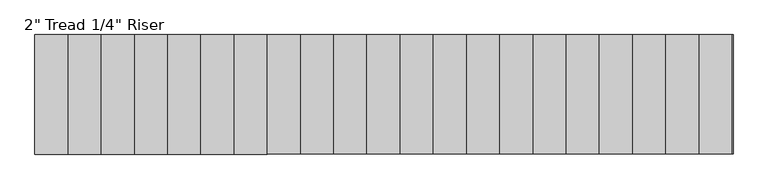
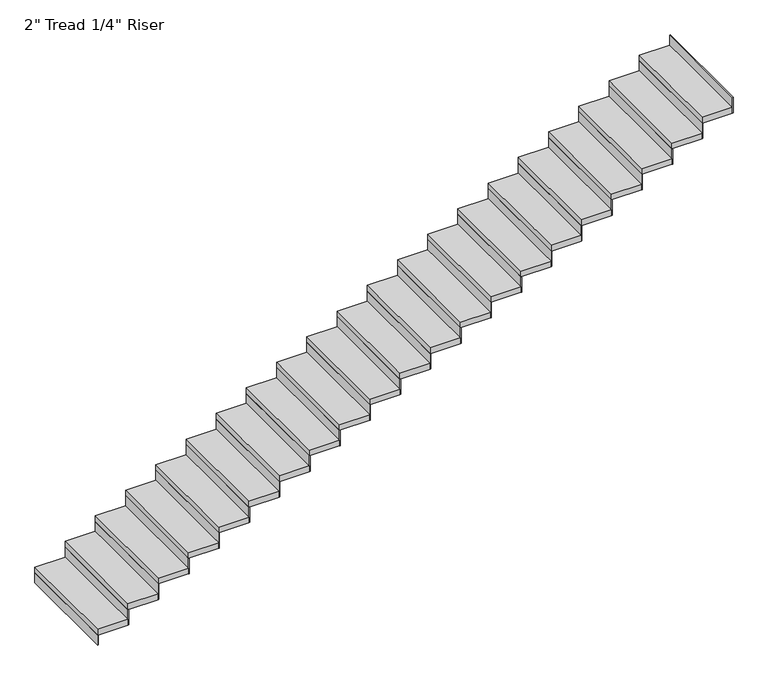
"""IFC4 building model written with IfcOpenShell, lengths in millimetres: stair flight geometry."""

from ifc_helpers import new_model, si_unit, frame, origin, origin_with_axes, place, context, project, spatial, polyline, outline, extrude, source, transform, mapped, element, save


def stair_flight_d6851f9f(model_context):
    return source(origin(), model_context, "Body", "SweptSolid", [
        extrude(outline(polyline([(60465.3810647, -52193.6426165), (60459.0310647, -52193.6426165), (60459.0310647, -51279.2426165), (60465.3810647, -51279.2426165), (60465.3810647, -52193.6426165)])), origin_with_axes(), (0.0, 0.0, 1.0), 87.7454545),
        extrude(outline(polyline([(60713.0310647, -51279.2426165), (60713.0310647, -52193.6426165), (60459.0310647, -52193.6426165), (60459.0310647, -51279.2426165), (60713.0310647, -51279.2426165)])), frame((0.0, 0.0, 87.7454545), z_axis=(0.0, 0.0, 1.0), x_axis=(1.0, 0.0, 0.0)), (0.0, 0.0, 1.0), 50.8),
        extrude(outline(polyline([(60719.3810647, -52193.6426165), (60713.0310647, -52193.6426165), (60713.0310647, -51279.2426165), (60719.3810647, -51279.2426165), (60719.3810647, -52193.6426165)])), frame((0.0, 0.0, 87.7454545), z_axis=(0.0, 0.0, 1.0), x_axis=(1.0, 0.0, 0.0)), (0.0, 0.0, 1.0), 138.5454545),
        extrude(outline(polyline([(60967.0310647, -51279.2426165), (60967.0310647, -52193.6426165), (60713.0310647, -52193.6426165), (60713.0310647, -51279.2426165), (60967.0310647, -51279.2426165)])), frame((0.0, 0.0, 226.2909091), z_axis=(0.0, 0.0, 1.0), x_axis=(1.0, 0.0, 0.0)), (0.0, 0.0, 1.0), 50.8),
        extrude(outline(polyline([(60973.3810647, -52193.6426165), (60967.0310647, -52193.6426165), (60967.0310647, -51279.2426165), (60973.3810647, -51279.2426165), (60973.3810647, -52193.6426165)])), frame((0.0, 0.0, 226.2909091), z_axis=(0.0, 0.0, 1.0), x_axis=(1.0, 0.0, 0.0)), (0.0, 0.0, 1.0), 138.5454545),
        extrude(outline(polyline([(61221.0310647, -51279.2426165), (61221.0310647, -52193.6426165), (60967.0310647, -52193.6426165), (60967.0310647, -51279.2426165), (61221.0310647, -51279.2426165)])), frame((0.0, 0.0, 364.8363636), z_axis=(0.0, 0.0, 1.0), x_axis=(1.0, 0.0, 0.0)), (0.0, 0.0, 1.0), 50.8),
        extrude(outline(polyline([(61227.3810647, -52193.6426165), (61221.0310647, -52193.6426165), (61221.0310647, -51279.2426165), (61227.3810647, -51279.2426165), (61227.3810647, -52193.6426165)])), frame((0.0, 0.0, 364.8363636), z_axis=(0.0, 0.0, 1.0), x_axis=(1.0, 0.0, 0.0)), (0.0, 0.0, 1.0), 138.5454545),
        extrude(outline(polyline([(61475.0310647, -51279.2426165), (61475.0310647, -52193.6426165), (61221.0310647, -52193.6426165), (61221.0310647, -51279.2426165), (61475.0310647, -51279.2426165)])), frame((0.0, 0.0, 503.3818182), z_axis=(0.0, 0.0, 1.0), x_axis=(1.0, 0.0, 0.0)), (0.0, 0.0, 1.0), 50.8),
        extrude(outline(polyline([(61481.3810647, -52193.6426165), (61475.0310647, -52193.6426165), (61475.0310647, -51279.2426165), (61481.3810647, -51279.2426165), (61481.3810647, -52193.6426165)])), frame((0.0, 0.0, 503.3818182), z_axis=(0.0, 0.0, 1.0), x_axis=(1.0, 0.0, 0.0)), (0.0, 0.0, 1.0), 138.5454545),
        extrude(outline(polyline([(61729.0310647, -51279.2426165), (61729.0310647, -52193.6426165), (61475.0310647, -52193.6426165), (61475.0310647, -51279.2426165), (61729.0310647, -51279.2426165)])), frame((0.0, 0.0, 641.9272727), z_axis=(0.0, 0.0, 1.0), x_axis=(1.0, 0.0, 0.0)), (0.0, 0.0, 1.0), 50.8),
        extrude(outline(polyline([(61735.3810647, -52193.6426165), (61729.0310647, -52193.6426165), (61729.0310647, -51279.2426165), (61735.3810647, -51279.2426165), (61735.3810647, -52193.6426165)])), frame((0.0, 0.0, 641.9272727), z_axis=(0.0, 0.0, 1.0), x_axis=(1.0, 0.0, 0.0)), (0.0, 0.0, 1.0), 138.5454545),
        extrude(outline(polyline([(61983.0310647, -51279.2426165), (61983.0310647, -52193.6426165), (61729.0310647, -52193.6426165), (61729.0310647, -51279.2426165), (61983.0310647, -51279.2426165)])), frame((0.0, 0.0, 780.4727273), z_axis=(0.0, 0.0, 1.0), x_axis=(1.0, 0.0, 0.0)), (0.0, 0.0, 1.0), 50.8),
        extrude(outline(polyline([(61989.3810647, -52193.6426165), (61983.0310647, -52193.6426165), (61983.0310647, -51279.2426165), (61989.3810647, -51279.2426165), (61989.3810647, -52193.6426165)])), frame((0.0, 0.0, 780.4727273), z_axis=(0.0, 0.0, 1.0), x_axis=(1.0, 0.0, 0.0)), (0.0, 0.0, 1.0), 138.5454545),
        extrude(outline(polyline([(62237.0310647, -51279.2426165), (62237.0310647, -52193.6426165), (61983.0310647, -52193.6426165), (61983.0310647, -51279.2426165), (62237.0310647, -51279.2426165)])), frame((0.0, 0.0, 919.0181818), z_axis=(0.0, 0.0, 1.0), x_axis=(1.0, 0.0, 0.0)), (0.0, 0.0, 1.0), 50.8),
        extrude(outline(polyline([(62243.3810647, -52193.6426165), (62237.0310647, -52193.6426165), (62237.0310647, -51279.2426165), (62243.3810647, -51279.2426165), (62243.3810647, -52193.6426165)])), frame((0.0, 0.0, 919.0181818), z_axis=(0.0, 0.0, 1.0), x_axis=(1.0, 0.0, 0.0)), (0.0, 0.0, 1.0), 138.5454545),
        extrude(outline(polyline([(62491.0310647, -51279.2426165), (62491.0310647, -52193.6426165), (62237.0310647, -52193.6426165), (62237.0310647, -51279.2426165), (62491.0310647, -51279.2426165)])), frame((0.0, 0.0, 1057.5636364), z_axis=(0.0, 0.0, 1.0), x_axis=(1.0, 0.0, 0.0)), (0.0, 0.0, 1.0), 50.8),
        extrude(outline(polyline([(62497.3810647, -52193.6426165), (62491.0310647, -52193.6426165), (62491.0310647, -51279.2426165), (62497.3810647, -51279.2426165), (62497.3810647, -52193.6426165)])), frame((0.0, 0.0, 1057.5636364), z_axis=(0.0, 0.0, 1.0), x_axis=(1.0, 0.0, 0.0)), (0.0, 0.0, 1.0), 138.5454545),
        extrude(outline(polyline([(62745.0310647, -51279.2426165), (62745.0310647, -52193.6426165), (62491.0310647, -52193.6426165), (62491.0310647, -51279.2426165), (62745.0310647, -51279.2426165)])), frame((0.0, 0.0, 1196.1090909), z_axis=(0.0, 0.0, 1.0), x_axis=(1.0, 0.0, 0.0)), (0.0, 0.0, 1.0), 50.8),
        extrude(outline(polyline([(62751.3810647, -52193.6426165), (62745.0310647, -52193.6426165), (62745.0310647, -51279.2426165), (62751.3810647, -51279.2426165), (62751.3810647, -52193.6426165)])), frame((0.0, 0.0, 1196.1090909), z_axis=(0.0, 0.0, 1.0), x_axis=(1.0, 0.0, 0.0)), (0.0, 0.0, 1.0), 138.5454545),
        extrude(outline(polyline([(62999.0310647, -51279.2426165), (62999.0310647, -52193.6426165), (62745.0310647, -52193.6426165), (62745.0310647, -51279.2426165), (62999.0310647, -51279.2426165)])), frame((0.0, 0.0, 1334.6545455), z_axis=(0.0, 0.0, 1.0), x_axis=(1.0, 0.0, 0.0)), (0.0, 0.0, 1.0), 50.8),
        extrude(outline(polyline([(63005.3810647, -52193.6426165), (62999.0310647, -52193.6426165), (62999.0310647, -51279.2426165), (63005.3810647, -51279.2426165), (63005.3810647, -52193.6426165)])), frame((0.0, 0.0, 1334.6545455), z_axis=(0.0, 0.0, 1.0), x_axis=(1.0, 0.0, 0.0)), (0.0, 0.0, 1.0), 138.5454545),
        extrude(outline(polyline([(63253.0310647, -51279.2426165), (63253.0310647, -52193.6426165), (62999.0310647, -52193.6426165), (62999.0310647, -51279.2426165), (63253.0310647, -51279.2426165)])), frame((0.0, 0.0, 1473.2), z_axis=(0.0, 0.0, 1.0), x_axis=(1.0, 0.0, 0.0)), (0.0, 0.0, 1.0), 50.8),
        extrude(outline(polyline([(63259.3810647, -52193.6426165), (63253.0310647, -52193.6426165), (63253.0310647, -51279.2426165), (63259.3810647, -51279.2426165), (63259.3810647, -52193.6426165)])), frame((0.0, 0.0, 1473.2), z_axis=(0.0, 0.0, 1.0), x_axis=(1.0, 0.0, 0.0)), (0.0, 0.0, 1.0), 138.5454545),
        extrude(outline(polyline([(63507.0310647, -51279.2426165), (63507.0310647, -52193.6426165), (63253.0310647, -52193.6426165), (63253.0310647, -51279.2426165), (63507.0310647, -51279.2426165)])), frame((0.0, 0.0, 1611.7454545), z_axis=(0.0, 0.0, 1.0), x_axis=(1.0, 0.0, 0.0)), (0.0, 0.0, 1.0), 50.8),
        extrude(outline(polyline([(63513.3810647, -52193.6426165), (63507.0310647, -52193.6426165), (63507.0310647, -51279.2426165), (63513.3810647, -51279.2426165), (63513.3810647, -52193.6426165)])), frame((0.0, 0.0, 1611.7454545), z_axis=(0.0, 0.0, 1.0), x_axis=(1.0, 0.0, 0.0)), (0.0, 0.0, 1.0), 138.5454545),
        extrude(outline(polyline([(63761.0310647, -51279.2426165), (63761.0310647, -52193.6426165), (63507.0310647, -52193.6426165), (63507.0310647, -51279.2426165), (63761.0310647, -51279.2426165)])), frame((0.0, 0.0, 1750.2909091), z_axis=(0.0, 0.0, 1.0), x_axis=(1.0, 0.0, 0.0)), (0.0, 0.0, 1.0), 50.8),
        extrude(outline(polyline([(63767.3810647, -52193.6426165), (63761.0310647, -52193.6426165), (63761.0310647, -51279.2426165), (63767.3810647, -51279.2426165), (63767.3810647, -52193.6426165)])), frame((0.0, 0.0, 1750.2909091), z_axis=(0.0, 0.0, 1.0), x_axis=(1.0, 0.0, 0.0)), (0.0, 0.0, 1.0), 138.5454545),
        extrude(outline(polyline([(64015.0310647, -51279.2426165), (64015.0310647, -52193.6426165), (63761.0310647, -52193.6426165), (63761.0310647, -51279.2426165), (64015.0310647, -51279.2426165)])), frame((0.0, 0.0, 1888.8363636), z_axis=(0.0, 0.0, 1.0), x_axis=(1.0, 0.0, 0.0)), (0.0, 0.0, 1.0), 50.8),
        extrude(outline(polyline([(64021.3810647, -52193.6426165), (64015.0310647, -52193.6426165), (64015.0310647, -51279.2426165), (64021.3810647, -51279.2426165), (64021.3810647, -52193.6426165)])), frame((0.0, 0.0, 1888.8363636), z_axis=(0.0, 0.0, 1.0), x_axis=(1.0, 0.0, 0.0)), (0.0, 0.0, 1.0), 138.5454545),
        extrude(outline(polyline([(64269.0310647, -51279.2426165), (64269.0310647, -52193.6426165), (64015.0310647, -52193.6426165), (64015.0310647, -51279.2426165), (64269.0310647, -51279.2426165)])), frame((0.0, 0.0, 2027.3818182), z_axis=(0.0, 0.0, 1.0), x_axis=(1.0, 0.0, 0.0)), (0.0, 0.0, 1.0), 50.8),
        extrude(outline(polyline([(64275.3810647, -52193.6426165), (64269.0310647, -52193.6426165), (64269.0310647, -51279.2426165), (64275.3810647, -51279.2426165), (64275.3810647, -52193.6426165)])), frame((0.0, 0.0, 2027.3818182), z_axis=(0.0, 0.0, 1.0), x_axis=(1.0, 0.0, 0.0)), (0.0, 0.0, 1.0), 138.5454545),
        extrude(outline(polyline([(64523.0310647, -51279.2426165), (64523.0310647, -52193.6426165), (64269.0310647, -52193.6426165), (64269.0310647, -51279.2426165), (64523.0310647, -51279.2426165)])), frame((0.0, 0.0, 2165.9272727), z_axis=(0.0, 0.0, 1.0), x_axis=(1.0, 0.0, 0.0)), (0.0, 0.0, 1.0), 50.8),
        extrude(outline(polyline([(64529.3810647, -52193.6426165), (64523.0310647, -52193.6426165), (64523.0310647, -51279.2426165), (64529.3810647, -51279.2426165), (64529.3810647, -52193.6426165)])), frame((0.0, 0.0, 2165.9272727), z_axis=(0.0, 0.0, 1.0), x_axis=(1.0, 0.0, 0.0)), (0.0, 0.0, 1.0), 138.5454545),
        extrude(outline(polyline([(64777.0310647, -51279.2426165), (64777.0310647, -52193.6426165), (64523.0310647, -52193.6426165), (64523.0310647, -51279.2426165), (64777.0310647, -51279.2426165)])), frame((0.0, 0.0, 2304.4727273), z_axis=(0.0, 0.0, 1.0), x_axis=(1.0, 0.0, 0.0)), (0.0, 0.0, 1.0), 50.8),
        extrude(outline(polyline([(64783.3810647, -52193.6426165), (64777.0310647, -52193.6426165), (64777.0310647, -51279.2426165), (64783.3810647, -51279.2426165), (64783.3810647, -52193.6426165)])), frame((0.0, 0.0, 2304.4727273), z_axis=(0.0, 0.0, 1.0), x_axis=(1.0, 0.0, 0.0)), (0.0, 0.0, 1.0), 138.5454545),
        extrude(outline(polyline([(65031.0310647, -51279.2426165), (65031.0310647, -52193.6426165), (64777.0310647, -52193.6426165), (64777.0310647, -51279.2426165), (65031.0310647, -51279.2426165)])), frame((0.0, 0.0, 2443.0181818), z_axis=(0.0, 0.0, 1.0), x_axis=(1.0, 0.0, 0.0)), (0.0, 0.0, 1.0), 50.8),
        extrude(outline(polyline([(65037.3810647, -52193.6426165), (65031.0310647, -52193.6426165), (65031.0310647, -51279.2426165), (65037.3810647, -51279.2426165), (65037.3810647, -52193.6426165)])), frame((0.0, 0.0, 2443.0181818), z_axis=(0.0, 0.0, 1.0), x_axis=(1.0, 0.0, 0.0)), (0.0, 0.0, 1.0), 138.5454545),
        extrude(outline(polyline([(65285.0310647, -51279.2426165), (65285.0310647, -52193.6426165), (65031.0310647, -52193.6426165), (65031.0310647, -51279.2426165), (65285.0310647, -51279.2426165)])), frame((0.0, 0.0, 2581.5636364), z_axis=(0.0, 0.0, 1.0), x_axis=(1.0, 0.0, 0.0)), (0.0, 0.0, 1.0), 50.8),
        extrude(outline(polyline([(65291.3810647, -52193.6426165), (65285.0310647, -52193.6426165), (65285.0310647, -51279.2426165), (65291.3810647, -51279.2426165), (65291.3810647, -52193.6426165)])), frame((0.0, 0.0, 2581.5636364), z_axis=(0.0, 0.0, 1.0), x_axis=(1.0, 0.0, 0.0)), (0.0, 0.0, 1.0), 138.5454545),
        extrude(outline(polyline([(65539.0310647, -51279.2426165), (65539.0310647, -52193.6426165), (65285.0310647, -52193.6426165), (65285.0310647, -51279.2426165), (65539.0310647, -51279.2426165)])), frame((0.0, 0.0, 2720.1090909), z_axis=(0.0, 0.0, 1.0), x_axis=(1.0, 0.0, 0.0)), (0.0, 0.0, 1.0), 50.8),
        extrude(outline(polyline([(65545.3810647, -52193.6426165), (65539.0310647, -52193.6426165), (65539.0310647, -51279.2426165), (65545.3810647, -51279.2426165), (65545.3810647, -52193.6426165)])), frame((0.0, 0.0, 2720.1090909), z_axis=(0.0, 0.0, 1.0), x_axis=(1.0, 0.0, 0.0)), (0.0, 0.0, 1.0), 138.5454545),
        extrude(outline(polyline([(65799.3810647, -52193.6426165), (65793.0310647, -52193.6426165), (65793.0310647, -51279.2426165), (65799.3810647, -51279.2426165), (65799.3810647, -52193.6426165)])), frame((0.0, 0.0, 2858.6545455), z_axis=(0.0, 0.0, 1.0), x_axis=(1.0, 0.0, 0.0)), (0.0, 0.0, 1.0), 138.5454545),
        extrude(outline(polyline([(65793.0310647, -51279.2426165), (65793.0310647, -52193.6426165), (65539.0310647, -52193.6426165), (65539.0310647, -51279.2426165), (65793.0310647, -51279.2426165)])), frame((0.0, 0.0, 2858.6545455), z_axis=(0.0, 0.0, 1.0), x_axis=(1.0, 0.0, 0.0)), (0.0, 0.0, 1.0), 50.8),
    ])


if __name__ == "__main__":
    model = new_model("IFC4")
    model_context = context("Model", 3, world=origin())
    ifc_project = project(units=[si_unit("LENGTHUNIT", "METRE", prefix="MILLI")], contexts=[model_context])
    site = spatial("IfcSite", under=ifc_project)
    building = spatial("IfcBuilding", under=site)
    placement = place(None, origin())
    stair_flight_shape = stair_flight_d6851f9f(model_context)
    element("IfcStairFlight", 1, ObjectType="2\" Tread 1/4\" Riser", at=placement, inside=building, context=model_context, shape_type="MappedRepresentation", body=[
        mapped(stair_flight_shape, transform((0.0, 0.0, 0.0), x_axis=(1.0, 0.0, 0.0), y_axis=(0.0, 1.0, 0.0), z_axis=(0.0, 0.0, 1.0))),
    ])
    save(model, "model.ifc")
